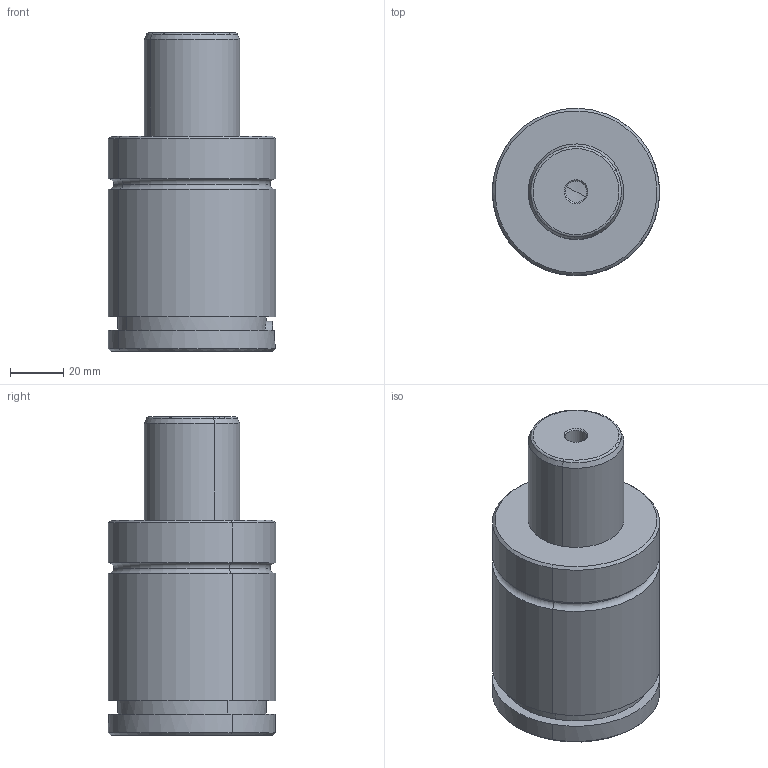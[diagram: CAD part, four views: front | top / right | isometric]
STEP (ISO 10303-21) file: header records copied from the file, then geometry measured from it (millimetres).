
FILE_DESCRIPTION(('FreeCAD Model'),'2;1');
FILE_NAME('Open CASCADE Shape Model','2024-11-12T12:14:15',('Author'),( ''),'Open CASCADE STEP processor 7.6','FreeCAD','Unknown');
FILE_SCHEMA(('AUTOMOTIVE_DESIGN { 1 0 10303 214 1 1 1 1 }'));
Length unit declared in the file: millimetre
Products named in the file (2): Part001; Cut
Assembly tree (1 placements, depth 2):
  Part001
    Cut
Bounding box: 63 x 62.98 x 120 mm (x, y, z)
Volume: 284337.9 mm3; surface area: 29806.6 mm2
Topology: 1 solids, 2 shells, 94 faces, 213 edges, 127 vertices
Faces by surface type: cone 34, cylinder 31, plane 21, torus 8
Full cylindrical faces by diameter (mm): 8 x4
Entity records: 3226 total; most frequent: CARTESIAN_POINT 1180, ORIENTED_EDGE 414, DIRECTION 408, EDGE_CURVE 207, AXIS2_PLACEMENT_3D 167, VERTEX_POINT 127, FACE_BOUND 106, EDGE_LOOP 106
